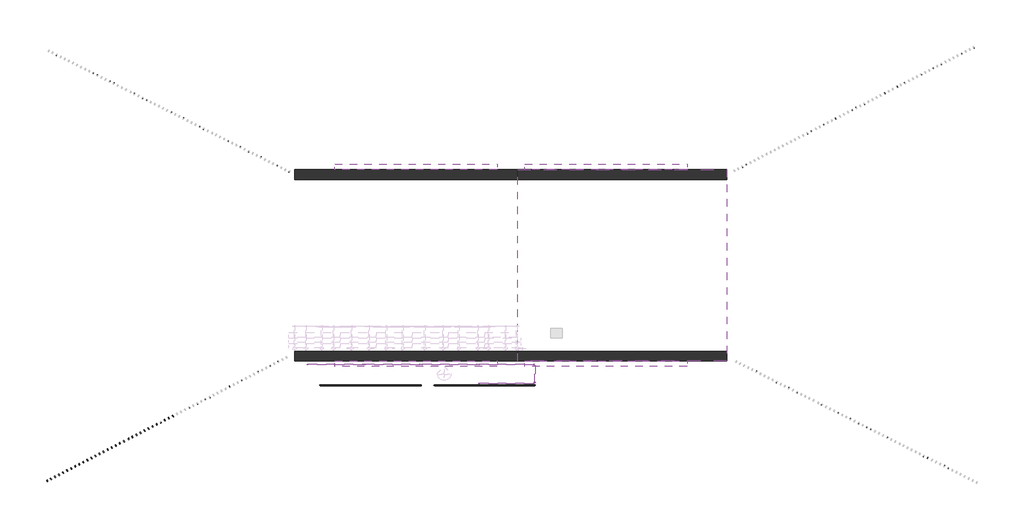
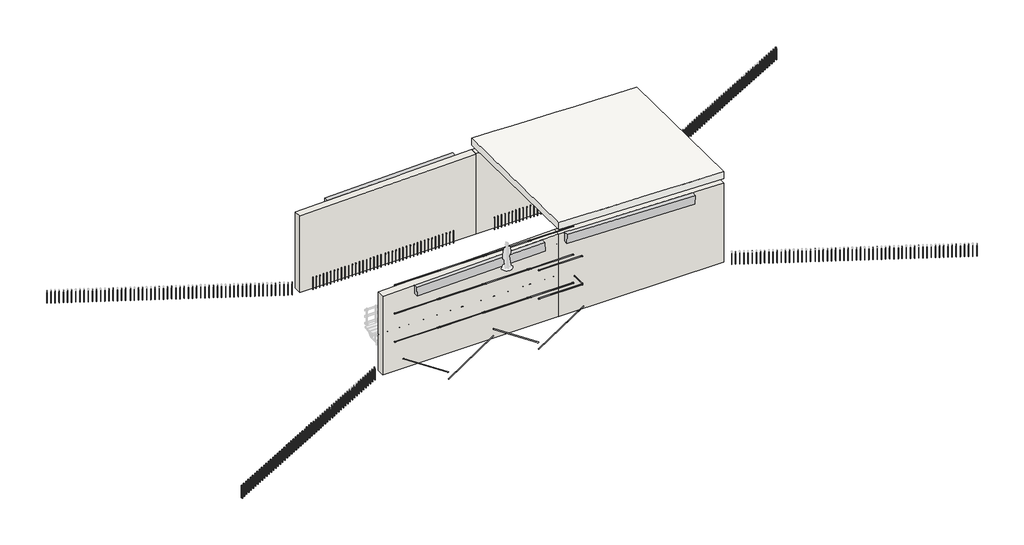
# One storey, part 1 of 7: 82 proxies, 44 beams, 4 walls, 1 slab.
"""IFC4 building model written with IfcOpenShell, lengths in millimetres."""

from ifc_helpers import new_model, si_unit, frame, origin, place, context, project, spatial, polyline, outline, extrude, transform, mapped, element, save
from ifc_brep_helpers import plane_surface, spline_surface, advanced_brep
from components import beam_9b0c44ac, generic_models_e9040c9c, d300200_67c6fa93, l100_80f0c97a, l300_ff75a488

model = new_model("IFC4")

# Units and contexts
model_context = context("Model", 3, world=origin())
ifc_project = project(units=[si_unit("LENGTHUNIT", "METRE", prefix="MILLI")], contexts=[model_context])

# Site, building, storey
site = spatial("IfcSite", under=ifc_project)
building = spatial("IfcBuilding", under=site)
storey = spatial("IfcBuildingStorey", under=building, Name="Niveau bas piédroits", Elevation=1000.0)

# Beams
placement = place(None, origin())
element("IfcBeam", 1, ObjectType="Poutre rectangulaire - Béton : Corbeau en béton armé", at=placement, inside=storey, context=model_context, shape_type="SweptSolid", body=[
    extrude(outline(polyline([(0.0, -300.0), (0.0, 0.0), (8525.4, 0.0), (8525.4, -300.0), (0.0, -300.0)])), frame((-1062.6803852, 5550.0000072, 6035.042541), z_axis=(-0.024883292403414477, 0.0, 0.9996903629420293), x_axis=(-0.9996903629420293, 0.0, -0.024883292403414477)), (0.0, 0.0, 1.0), 600.0),
])
element("IfcBeam", 2, ObjectType="Poutre rectangulaire - Béton : Corbeau en béton armé", at=placement, inside=storey, context=model_context, shape_type="SweptSolid", body=[
    extrude(outline(polyline([(0.0, -300.0), (0.0, 0.0), (8525.4, 0.0), (8525.4, -300.0), (0.0, -300.0)])), frame((8907.2788616, 5550.0000072, 5838.9041325), z_axis=(0.025139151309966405, 0.0, 0.9996839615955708), x_axis=(-0.9996839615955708, 0.0, 0.025139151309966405)), (0.0, 0.0, 1.0), 600.0),
])
element("IfcBeam", 3, ObjectType="Poutre rectangulaire - Béton : Corbeau en béton armé", at=placement, inside=storey, context=model_context, shape_type="SweptSolid", body=[
    extrude(outline(polyline([(150.0, 0.0), (-150.0, 0.0), (-150.0, 8527.4), (150.0, 8527.4), (150.0, 0.0)])), frame((-1061.7969111, -4649.9999928, 6180.0616294), z_axis=(-0.02464821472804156, 0.0, 0.9996961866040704), x_axis=(0.0, 1.0, 0.0)), (0.0, 0.0, 1.0), 600.0),
])
element("IfcBeam", 4, ObjectType="Poutre rectangulaire - Béton : Corbeau en béton armé", at=placement, inside=storey, context=model_context, shape_type="SweptSolid", body=[
    extrude(outline(polyline([(150.0, 0.0), (-150.0, 0.0), (-150.0, 8527.4), (150.0, 8527.4), (150.0, 0.0)])), frame((8908.2965556, -4649.9999935, 5989.8788556), z_axis=(0.025113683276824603, 0.0, 0.9996846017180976), x_axis=(0.0, 1.0, 0.0)), (0.0, 0.0, 1.0), 600.0),
])
beam_shape = beam_9b0c44ac(model_context)
element("IfcBeam", 5, ObjectType="Attentes HA 10 : Attentes HA 10", at=placement, inside=storey, context=model_context, shape_type="MappedRepresentation", body=[
    mapped(beam_shape, transform((8444.5007275, -4039.9999928, 0.0), x_axis=(1.0, 0.0, 0.0), y_axis=(0.0, 1.0, 0.0), z_axis=(0.0, 0.0, 1.0))),
])
element("IfcBeam", 6, ObjectType="Attentes HA 10 : Attentes HA 10", at=placement, inside=storey, context=model_context, shape_type="MappedRepresentation", body=[
    mapped(beam_shape, transform((8444.5007275, -4319.9999928, 0.0), x_axis=(1.0, 0.0, 0.0), y_axis=(0.0, 1.0, 0.0), z_axis=(0.0, 0.0, 1.0))),
])
element("IfcBeam", 7, ObjectType="Attentes HA 10 : Attentes HA 10", at=placement, inside=storey, context=model_context, shape_type="MappedRepresentation", body=[
    mapped(beam_shape, transform((3624.5007275, -4039.9999928, 0.0), x_axis=(1.0, 0.0, 0.0), y_axis=(0.0, 1.0, 0.0), z_axis=(0.0, 0.0, 1.0))),
])
element("IfcBeam", 8, ObjectType="Attentes HA 10 : Attentes HA 10", at=placement, inside=storey, context=model_context, shape_type="MappedRepresentation", body=[
    mapped(beam_shape, transform((3624.5007275, -4319.9999928, 0.0), x_axis=(1.0, 0.0, 0.0), y_axis=(0.0, 1.0, 0.0), z_axis=(0.0, 0.0, 1.0))),
])
element("IfcBeam", 9, ObjectType="Attentes HA 10 : Attentes HA 10", at=placement, inside=storey, context=model_context, shape_type="MappedRepresentation", body=[
    mapped(beam_shape, transform((-18278.7988754, 8642.3508999, -204.3181378), x_axis=(0.8933406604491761, -0.449380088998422, 0.0), y_axis=(0.449380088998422, 0.8933406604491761, 0.0), z_axis=(0.0, 0.0, 1.0))),
])
element("IfcBeam", 10, ObjectType="Attentes HA 10 : Attentes HA 10", at=placement, inside=storey, context=model_context, shape_type="MappedRepresentation", body=[
    mapped(beam_shape, transform((-18303.5147803, 8593.2171636, -204.3181378), x_axis=(0.8933406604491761, -0.449380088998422, 0.0), y_axis=(0.449380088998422, 0.8933406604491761, 0.0), z_axis=(0.0, 0.0, 1.0))),
])
element("IfcBeam", 11, ObjectType="Attentes HA 10 : Attentes HA 10", at=placement, inside=storey, context=model_context, shape_type="MappedRepresentation", body=[
    mapped(beam_shape, transform((-22584.7008588, 10808.3629289, -204.3181378), x_axis=(0.8933406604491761, -0.449380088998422, 0.0), y_axis=(0.449380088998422, 0.8933406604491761, 0.0), z_axis=(0.0, 0.0, 1.0))),
])
element("IfcBeam", 12, ObjectType="Attentes HA 10 : Attentes HA 10", at=placement, inside=storey, context=model_context, shape_type="MappedRepresentation", body=[
    mapped(beam_shape, transform((-22609.4167637, 10759.2291925, -204.3181378), x_axis=(0.8933406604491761, -0.449380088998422, 0.0), y_axis=(0.449380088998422, 0.8933406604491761, 0.0), z_axis=(0.0, 0.0, 1.0))),
])
element("IfcBeam", 13, ObjectType="Attentes HA 10 : Attentes HA 10", at=placement, inside=storey, context=model_context, shape_type="MappedRepresentation", body=[
    mapped(beam_shape, transform((-13990.7637053, 6485.3264727, -204.3181378), x_axis=(0.8933406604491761, -0.449380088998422, 0.0), y_axis=(0.449380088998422, 0.8933406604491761, 0.0), z_axis=(0.0, 0.0, 1.0))),
])
element("IfcBeam", 14, ObjectType="Attentes HA 10 : Attentes HA 10", at=placement, inside=storey, context=model_context, shape_type="MappedRepresentation", body=[
    mapped(beam_shape, transform((-14015.4796102, 6436.1927364, -204.3181378), x_axis=(0.8933406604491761, -0.449380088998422, 0.0), y_axis=(0.449380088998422, 0.8933406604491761, 0.0), z_axis=(0.0, 0.0, 1.0))),
])
element("IfcBeam", 15, ObjectType="Attentes HA 10 : Attentes HA 10", at=placement, inside=storey, context=model_context, shape_type="MappedRepresentation", body=[
    mapped(beam_shape, transform((-3741.9547896, 5322.0556666, 0.0), x_axis=(1.0, 0.0, 0.0), y_axis=(0.0, 1.0, 0.0), z_axis=(0.0, 0.0, 1.0))),
])
element("IfcBeam", 16, ObjectType="Attentes HA 10 : Attentes HA 10", at=placement, inside=storey, context=model_context, shape_type="MappedRepresentation", body=[
    mapped(beam_shape, transform((-3741.9547896, 5042.0556666, 0.0), x_axis=(1.0, 0.0, 0.0), y_axis=(0.0, 1.0, 0.0), z_axis=(0.0, 0.0, 1.0))),
])
element("IfcBeam", 17, ObjectType="Attentes HA 10 : Attentes HA 10", at=placement, inside=storey, context=model_context, shape_type="MappedRepresentation", body=[
    mapped(beam_shape, transform((-8561.9547896, 5322.0556666, 0.0), x_axis=(1.0, 0.0, 0.0), y_axis=(0.0, 1.0, 0.0), z_axis=(0.0, 0.0, 1.0))),
])
element("IfcBeam", 18, ObjectType="Attentes HA 10 : Attentes HA 10", at=placement, inside=storey, context=model_context, shape_type="MappedRepresentation", body=[
    mapped(beam_shape, transform((-8561.9547896, 5042.0556666, 0.0), x_axis=(1.0, 0.0, 0.0), y_axis=(0.0, 1.0, 0.0), z_axis=(0.0, 0.0, 1.0))),
])
element("IfcBeam", 19, ObjectType="Attentes HA 10 : Attentes HA 10", at=placement, inside=storey, context=model_context, shape_type="MappedRepresentation", body=[
    mapped(beam_shape, transform((8358.0452104, 5322.0556666, 0.0), x_axis=(1.0, 0.0, 0.0), y_axis=(0.0, 1.0, 0.0), z_axis=(0.0, 0.0, 1.0))),
])
element("IfcBeam", 20, ObjectType="Attentes HA 10 : Attentes HA 10", at=placement, inside=storey, context=model_context, shape_type="MappedRepresentation", body=[
    mapped(beam_shape, transform((8358.0452104, 5042.0556666, 0.0), x_axis=(1.0, 0.0, 0.0), y_axis=(0.0, 1.0, 0.0), z_axis=(0.0, 0.0, 1.0))),
])
element("IfcBeam", 21, ObjectType="Attentes HA 10 : Attentes HA 10", at=placement, inside=storey, context=model_context, shape_type="MappedRepresentation", body=[
    mapped(beam_shape, transform((3538.0452104, 5322.0556666, 0.0), x_axis=(1.0, 0.0, 0.0), y_axis=(0.0, 1.0, 0.0), z_axis=(0.0, 0.0, 1.0))),
])
element("IfcBeam", 22, ObjectType="Attentes HA 10 : Attentes HA 10", at=placement, inside=storey, context=model_context, shape_type="MappedRepresentation", body=[
    mapped(beam_shape, transform((3538.0452104, 5042.0556666, 0.0), x_axis=(1.0, 0.0, 0.0), y_axis=(0.0, 1.0, 0.0), z_axis=(0.0, 0.0, 1.0))),
])
element("IfcBeam", 23, ObjectType="Attentes HA 10 : Attentes HA 10", at=placement, inside=storey, context=model_context, shape_type="MappedRepresentation", body=[
    mapped(beam_shape, transform((17868.8894494, -7714.7875423, -204.3181378), x_axis=(0.8933406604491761, -0.449380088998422, 0.0), y_axis=(0.449380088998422, 0.8933406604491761, 0.0), z_axis=(0.0, 0.0, 1.0))),
])
element("IfcBeam", 24, ObjectType="Attentes HA 10 : Attentes HA 10", at=placement, inside=storey, context=model_context, shape_type="MappedRepresentation", body=[
    mapped(beam_shape, transform((17844.1735445, -7763.9212787, -204.3181378), x_axis=(0.8933406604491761, -0.449380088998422, 0.0), y_axis=(0.449380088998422, 0.8933406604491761, 0.0), z_axis=(0.0, 0.0, 1.0))),
])
element("IfcBeam", 25, ObjectType="Attentes HA 10 : Attentes HA 10", at=placement, inside=storey, context=model_context, shape_type="MappedRepresentation", body=[
    mapped(beam_shape, transform((13562.987466, -5548.7755134, -204.3181378), x_axis=(0.8933406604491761, -0.449380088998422, 0.0), y_axis=(0.449380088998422, 0.8933406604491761, 0.0), z_axis=(0.0, 0.0, 1.0))),
])
element("IfcBeam", 26, ObjectType="Attentes HA 10 : Attentes HA 10", at=placement, inside=storey, context=model_context, shape_type="MappedRepresentation", body=[
    mapped(beam_shape, transform((13538.2715611, -5597.9092497, -204.3181378), x_axis=(0.8933406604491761, -0.449380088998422, 0.0), y_axis=(0.449380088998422, 0.8933406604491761, 0.0), z_axis=(0.0, 0.0, 1.0))),
])
element("IfcBeam", 27, ObjectType="Attentes HA 10 : Attentes HA 10", at=placement, inside=storey, context=model_context, shape_type="MappedRepresentation", body=[
    mapped(beam_shape, transform((22156.9246196, -9871.8119695, -204.3181378), x_axis=(0.8933406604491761, -0.449380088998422, 0.0), y_axis=(0.449380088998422, 0.8933406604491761, 0.0), z_axis=(0.0, 0.0, 1.0))),
])
element("IfcBeam", 28, ObjectType="Attentes HA 10 : Attentes HA 10", at=placement, inside=storey, context=model_context, shape_type="MappedRepresentation", body=[
    mapped(beam_shape, transform((22132.2087147, -9920.9457059, -204.3181378), x_axis=(0.8933406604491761, -0.449380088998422, 0.0), y_axis=(0.449380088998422, 0.8933406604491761, 0.0), z_axis=(0.0, 0.0, 1.0))),
])
element("IfcBeam", 29, ObjectType="Attentes HA 10 : Attentes HA 10", at=placement, inside=storey, context=model_context, shape_type="MappedRepresentation", body=[
    mapped(beam_shape, transform((17719.4567399, 8784.241325, -204.3181378), x_axis=(0.8886485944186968, 0.45858878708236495, 0.0), y_axis=(-0.45858878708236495, 0.8886485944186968, 0.0), z_axis=(0.0, 0.0, 1.0))),
])
element("IfcBeam", 30, ObjectType="Attentes HA 10 : Attentes HA 10", at=placement, inside=storey, context=model_context, shape_type="MappedRepresentation", body=[
    mapped(beam_shape, transform((17744.6791232, 8735.3656524, -204.3181378), x_axis=(0.8886485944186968, 0.45858878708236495, 0.0), y_axis=(-0.45858878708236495, 0.8886485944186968, 0.0), z_axis=(0.0, 0.0, 1.0))),
])
element("IfcBeam", 31, ObjectType="Attentes HA 10 : Attentes HA 10", at=placement, inside=storey, context=model_context, shape_type="MappedRepresentation", body=[
    mapped(beam_shape, transform((13436.1705148, 6573.8433713, -204.3181378), x_axis=(0.8886485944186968, 0.45858878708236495, 0.0), y_axis=(-0.45858878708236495, 0.8886485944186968, 0.0), z_axis=(0.0, 0.0, 1.0))),
])
element("IfcBeam", 32, ObjectType="Attentes HA 10 : Attentes HA 10", at=placement, inside=storey, context=model_context, shape_type="MappedRepresentation", body=[
    mapped(beam_shape, transform((13461.3928981, 6524.9676986, -204.3181378), x_axis=(0.8886485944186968, 0.45858878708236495, 0.0), y_axis=(-0.45858878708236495, 0.8886485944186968, 0.0), z_axis=(0.0, 0.0, 1.0))),
])
element("IfcBeam", 33, ObjectType="Attentes HA 10 : Attentes HA 10", at=placement, inside=storey, context=model_context, shape_type="MappedRepresentation", body=[
    mapped(beam_shape, transform((21984.9699931, 10985.467503, -204.3181378), x_axis=(0.8886485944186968, 0.45858878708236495, 0.0), y_axis=(-0.45858878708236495, 0.8886485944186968, 0.0), z_axis=(0.0, 0.0, 1.0))),
])
element("IfcBeam", 34, ObjectType="Attentes HA 10 : Attentes HA 10", at=placement, inside=storey, context=model_context, shape_type="MappedRepresentation", body=[
    mapped(beam_shape, transform((22010.1923764, 10936.5918303, -204.3181378), x_axis=(0.8886485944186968, 0.45858878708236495, 0.0), y_axis=(-0.45858878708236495, 0.8886485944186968, 0.0), z_axis=(0.0, 0.0, 1.0))),
])
element("IfcBeam", 35, ObjectType="Attentes HA 10 : Attentes HA 10", at=placement, inside=storey, context=model_context, shape_type="MappedRepresentation", body=[
    mapped(beam_shape, transform((-18423.1063622, -7537.8715514, -204.3181378), x_axis=(0.8886485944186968, 0.45858878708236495, 0.0), y_axis=(-0.45858878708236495, 0.8886485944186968, 0.0), z_axis=(0.0, 0.0, 1.0))),
])
element("IfcBeam", 36, ObjectType="Attentes HA 10 : Attentes HA 10", at=placement, inside=storey, context=model_context, shape_type="MappedRepresentation", body=[
    mapped(beam_shape, transform((-18397.8839789, -7586.7472241, -204.3181378), x_axis=(0.8886485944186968, 0.45858878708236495, 0.0), y_axis=(-0.45858878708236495, 0.8886485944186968, 0.0), z_axis=(0.0, 0.0, 1.0))),
])
element("IfcBeam", 37, ObjectType="Attentes HA 10 : Attentes HA 10", at=placement, inside=storey, context=model_context, shape_type="MappedRepresentation", body=[
    mapped(beam_shape, transform((-22706.3925873, -9748.2695052, -204.3181378), x_axis=(0.8886485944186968, 0.45858878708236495, 0.0), y_axis=(-0.45858878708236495, 0.8886485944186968, 0.0), z_axis=(0.0, 0.0, 1.0))),
])
element("IfcBeam", 38, ObjectType="Attentes HA 10 : Attentes HA 10", at=placement, inside=storey, context=model_context, shape_type="MappedRepresentation", body=[
    mapped(beam_shape, transform((-22681.170204, -9797.1451779, -204.3181378), x_axis=(0.8886485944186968, 0.45858878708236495, 0.0), y_axis=(-0.45858878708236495, 0.8886485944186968, 0.0), z_axis=(0.0, 0.0, 1.0))),
])
element("IfcBeam", 39, ObjectType="Attentes HA 10 : Attentes HA 10", at=placement, inside=storey, context=model_context, shape_type="MappedRepresentation", body=[
    mapped(beam_shape, transform((-14157.593109, -5336.6453734, -204.3181378), x_axis=(0.8886485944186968, 0.45858878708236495, 0.0), y_axis=(-0.45858878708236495, 0.8886485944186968, 0.0), z_axis=(0.0, 0.0, 1.0))),
])
element("IfcBeam", 40, ObjectType="Attentes HA 10 : Attentes HA 10", at=placement, inside=storey, context=model_context, shape_type="MappedRepresentation", body=[
    mapped(beam_shape, transform((-14132.3707257, -5385.5210461, -204.3181378), x_axis=(0.8886485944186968, 0.45858878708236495, 0.0), y_axis=(-0.45858878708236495, 0.8886485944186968, 0.0), z_axis=(0.0, 0.0, 1.0))),
])
element("IfcBeam", 41, ObjectType="Attentes HA 10 : Attentes HA 10", at=placement, inside=storey, context=model_context, shape_type="MappedRepresentation", body=[
    mapped(beam_shape, transform((-3255.4992725, -4039.9999928, 0.0), x_axis=(1.0, 0.0, 0.0), y_axis=(0.0, 1.0, 0.0), z_axis=(0.0, 0.0, 1.0))),
])
element("IfcBeam", 42, ObjectType="Attentes HA 10 : Attentes HA 10", at=placement, inside=storey, context=model_context, shape_type="MappedRepresentation", body=[
    mapped(beam_shape, transform((-3255.4992725, -4319.9999928, 0.0), x_axis=(1.0, 0.0, 0.0), y_axis=(0.0, 1.0, 0.0), z_axis=(0.0, 0.0, 1.0))),
])
element("IfcBeam", 43, ObjectType="Attentes HA 10 : Attentes HA 10", at=placement, inside=storey, context=model_context, shape_type="MappedRepresentation", body=[
    mapped(beam_shape, transform((-8075.4992725, -4039.9999928, 0.0), x_axis=(1.0, 0.0, 0.0), y_axis=(0.0, 1.0, 0.0), z_axis=(0.0, 0.0, 1.0))),
])
element("IfcBeam", 44, ObjectType="Attentes HA 10 : Attentes HA 10", at=placement, inside=storey, context=model_context, shape_type="MappedRepresentation", body=[
    mapped(beam_shape, transform((-8075.4992725, -4319.9999928, 0.0), x_axis=(1.0, 0.0, 0.0), y_axis=(0.0, 1.0, 0.0), z_axis=(0.0, 0.0, 1.0))),
])

# Proxies
generic_models_shape = generic_models_e9040c9c(model_context)
element("IfcBuildingElementProxy", 45, Name="Bouchon de sécurité vertical : Bouchon de sécurité vertical", ObjectType="Bouchon de sécurité vertical : Bouchon de sécurité vertical", at=placement, inside=storey, context=model_context, shape_type="MappedRepresentation", body=[
    mapped(generic_models_shape, transform((-22143.8979318, -9502.5796537, 1504.6594135), x_axis=(0.8886485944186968, 0.45858878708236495, 0.0), y_axis=(-0.45858878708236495, 0.8886485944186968, 0.0), z_axis=(0.0, 0.0, 1.0))),
])
element("IfcBuildingElementProxy", 46, Name="Bouchon de sécurité vertical : Bouchon de sécurité vertical", ObjectType="Bouchon de sécurité vertical : Bouchon de sécurité vertical", at=placement, inside=storey, context=model_context, shape_type="MappedRepresentation", body=[
    mapped(generic_models_shape, transform((-22357.1735945, -9612.6409626, 1504.6594135), x_axis=(0.8886485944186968, 0.45858878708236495, 0.0), y_axis=(-0.45858878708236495, 0.8886485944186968, 0.0), z_axis=(0.0, 0.0, 1.0))),
])
element("IfcBuildingElementProxy", 47, Name="Bouchon de sécurité vertical : Bouchon de sécurité vertical", ObjectType="Bouchon de sécurité vertical : Bouchon de sécurité vertical", at=placement, inside=storey, context=model_context, shape_type="MappedRepresentation", body=[
    mapped(generic_models_shape, transform((-22570.4492571, -9722.7022715, 1504.6594135), x_axis=(0.8886485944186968, 0.45858878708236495, 0.0), y_axis=(-0.45858878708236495, 0.8886485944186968, 0.0), z_axis=(0.0, 0.0, 1.0))),
])
element("IfcBuildingElementProxy", 48, Name="Bouchon de sécurité vertical : Bouchon de sécurité vertical", ObjectType="Bouchon de sécurité vertical : Bouchon de sécurité vertical", at=placement, inside=storey, context=model_context, shape_type="MappedRepresentation", body=[
    mapped(generic_models_shape, transform((-22783.7249198, -9832.7635804, 1504.6594135), x_axis=(0.8886485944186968, 0.45858878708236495, 0.0), y_axis=(-0.45858878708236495, 0.8886485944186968, 0.0), z_axis=(0.0, 0.0, 1.0))),
])
element("IfcBuildingElementProxy", 49, Name="Bouchon de sécurité vertical : Bouchon de sécurité vertical", ObjectType="Bouchon de sécurité vertical : Bouchon de sécurité vertical", at=placement, inside=storey, context=model_context, shape_type="MappedRepresentation", body=[
    mapped(generic_models_shape, transform((-22997.0005824, -9942.8248893, 1504.6594135), x_axis=(0.8886485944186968, 0.45858878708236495, 0.0), y_axis=(-0.45858878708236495, 0.8886485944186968, 0.0), z_axis=(0.0, 0.0, 1.0))),
])
element("IfcBuildingElementProxy", 50, Name="Bouchon de sécurité vertical : Bouchon de sécurité vertical", ObjectType="Bouchon de sécurité vertical : Bouchon de sécurité vertical", at=placement, inside=storey, context=model_context, shape_type="MappedRepresentation", body=[
    mapped(generic_models_shape, transform((-23210.2762451, -10052.8861982, 1504.6594135), x_axis=(0.8886485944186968, 0.45858878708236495, 0.0), y_axis=(-0.45858878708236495, 0.8886485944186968, 0.0), z_axis=(0.0, 0.0, 1.0))),
])
element("IfcBuildingElementProxy", 51, Name="Bouchon de sécurité vertical : Bouchon de sécurité vertical", ObjectType="Bouchon de sécurité vertical : Bouchon de sécurité vertical", at=placement, inside=storey, context=model_context, shape_type="MappedRepresentation", body=[
    mapped(generic_models_shape, transform((-23423.5519078, -10162.9475071, 1504.6594135), x_axis=(0.8886485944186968, 0.45858878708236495, 0.0), y_axis=(-0.45858878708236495, 0.8886485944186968, 0.0), z_axis=(0.0, 0.0, 1.0))),
])
element("IfcBuildingElementProxy", 52, Name="Bouchon de sécurité vertical : Bouchon de sécurité vertical", ObjectType="Bouchon de sécurité vertical : Bouchon de sécurité vertical", at=placement, inside=storey, context=model_context, shape_type="MappedRepresentation", body=[
    mapped(generic_models_shape, transform((-23636.8275704, -10273.0088159, 1504.6594135), x_axis=(0.8886485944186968, 0.45858878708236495, 0.0), y_axis=(-0.45858878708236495, 0.8886485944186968, 0.0), z_axis=(0.0, 0.0, 1.0))),
])
element("IfcBuildingElementProxy", 53, Name="Bouchon de sécurité vertical : Bouchon de sécurité vertical", ObjectType="Bouchon de sécurité vertical : Bouchon de sécurité vertical", at=placement, inside=storey, context=model_context, shape_type="MappedRepresentation", body=[
    mapped(generic_models_shape, transform((-23850.1032331, -10383.0701248, 1504.6594135), x_axis=(0.8886485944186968, 0.45858878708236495, 0.0), y_axis=(-0.45858878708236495, 0.8886485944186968, 0.0), z_axis=(0.0, 0.0, 1.0))),
])
element("IfcBuildingElementProxy", 54, Name="Bouchon de sécurité vertical : Bouchon de sécurité vertical", ObjectType="Bouchon de sécurité vertical : Bouchon de sécurité vertical", at=placement, inside=storey, context=model_context, shape_type="MappedRepresentation", body=[
    mapped(generic_models_shape, transform((-24063.3788957, -10493.1314337, 1504.6594135), x_axis=(0.8886485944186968, 0.45858878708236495, 0.0), y_axis=(-0.45858878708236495, 0.8886485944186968, 0.0), z_axis=(0.0, 0.0, 1.0))),
])
element("IfcBuildingElementProxy", 55, Name="Bouchon de sécurité vertical : Bouchon de sécurité vertical", ObjectType="Bouchon de sécurité vertical : Bouchon de sécurité vertical", at=placement, inside=storey, context=model_context, shape_type="MappedRepresentation", body=[
    mapped(generic_models_shape, transform((-24276.6545584, -10603.1927426, 1504.6594135), x_axis=(0.8886485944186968, 0.45858878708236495, 0.0), y_axis=(-0.45858878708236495, 0.8886485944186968, 0.0), z_axis=(0.0, 0.0, 1.0))),
])
element("IfcBuildingElementProxy", 56, Name="Bouchon de sécurité vertical : Bouchon de sécurité vertical", ObjectType="Bouchon de sécurité vertical : Bouchon de sécurité vertical", at=placement, inside=storey, context=model_context, shape_type="MappedRepresentation", body=[
    mapped(generic_models_shape, transform((-24489.9302211, -10713.2540515, 1504.6594135), x_axis=(0.8886485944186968, 0.45858878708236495, 0.0), y_axis=(-0.45858878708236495, 0.8886485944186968, 0.0), z_axis=(0.0, 0.0, 1.0))),
])
element("IfcBuildingElementProxy", 57, Name="Bouchon de sécurité vertical : Bouchon de sécurité vertical", ObjectType="Bouchon de sécurité vertical : Bouchon de sécurité vertical", at=placement, inside=storey, context=model_context, shape_type="MappedRepresentation", body=[
    mapped(generic_models_shape, transform((-24685.4329118, -10814.1435847, 1504.6594135), x_axis=(0.8886485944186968, 0.45858878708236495, 0.0), y_axis=(-0.45858878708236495, 0.8886485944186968, 0.0), z_axis=(0.0, 0.0, 1.0))),
])
element("IfcBuildingElementProxy", 58, Name="Bouchon de sécurité vertical : Bouchon de sécurité vertical", ObjectType="Bouchon de sécurité vertical : Bouchon de sécurité vertical", at=placement, inside=storey, context=model_context, shape_type="MappedRepresentation", body=[
    mapped(generic_models_shape, transform((-21930.6222691, -9392.5183448, 1504.6594135), x_axis=(0.8886485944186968, 0.45858878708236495, 0.0), y_axis=(-0.45858878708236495, 0.8886485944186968, 0.0), z_axis=(0.0, 0.0, 1.0))),
])
element("IfcBuildingElementProxy", 59, Name="Bouchon de sécurité vertical : Bouchon de sécurité vertical", ObjectType="Bouchon de sécurité vertical : Bouchon de sécurité vertical", at=placement, inside=storey, context=model_context, shape_type="MappedRepresentation", body=[
    mapped(generic_models_shape, transform((-21717.3466065, -9282.4570359, 1504.6594135), x_axis=(0.8886485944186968, 0.45858878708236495, 0.0), y_axis=(-0.45858878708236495, 0.8886485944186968, 0.0), z_axis=(0.0, 0.0, 1.0))),
])
element("IfcBuildingElementProxy", 60, Name="Bouchon de sécurité vertical : Bouchon de sécurité vertical", ObjectType="Bouchon de sécurité vertical : Bouchon de sécurité vertical", at=placement, inside=storey, context=model_context, shape_type="MappedRepresentation", body=[
    mapped(generic_models_shape, transform((-20402.0703296, -8603.7062267, 1504.6594135), x_axis=(0.8886485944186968, 0.45858878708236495, 0.0), y_axis=(-0.45858878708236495, 0.8886485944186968, 0.0), z_axis=(0.0, 0.0, 1.0))),
])
element("IfcBuildingElementProxy", 61, Name="Bouchon de sécurité vertical : Bouchon de sécurité vertical", ObjectType="Bouchon de sécurité vertical : Bouchon de sécurité vertical", at=placement, inside=storey, context=model_context, shape_type="MappedRepresentation", body=[
    mapped(generic_models_shape, transform((-20650.9682932, -8732.1504914, 1504.6594135), x_axis=(0.8886485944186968, 0.45858878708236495, 0.0), y_axis=(-0.45858878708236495, 0.8886485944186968, 0.0), z_axis=(0.0, 0.0, 1.0))),
])
element("IfcBuildingElementProxy", 62, Name="Bouchon de sécurité vertical : Bouchon de sécurité vertical", ObjectType="Bouchon de sécurité vertical : Bouchon de sécurité vertical", at=placement, inside=storey, context=model_context, shape_type="MappedRepresentation", body=[
    mapped(generic_models_shape, transform((-20864.2439558, -8842.2118003, 1504.6594135), x_axis=(0.8886485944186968, 0.45858878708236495, 0.0), y_axis=(-0.45858878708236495, 0.8886485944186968, 0.0), z_axis=(0.0, 0.0, 1.0))),
])
element("IfcBuildingElementProxy", 63, Name="Bouchon de sécurité vertical : Bouchon de sécurité vertical", ObjectType="Bouchon de sécurité vertical : Bouchon de sécurité vertical", at=placement, inside=storey, context=model_context, shape_type="MappedRepresentation", body=[
    mapped(generic_models_shape, transform((-21077.5196185, -8952.2731092, 1504.6594135), x_axis=(0.8886485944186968, 0.45858878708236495, 0.0), y_axis=(-0.45858878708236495, 0.8886485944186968, 0.0), z_axis=(0.0, 0.0, 1.0))),
])
element("IfcBuildingElementProxy", 64, Name="Bouchon de sécurité vertical : Bouchon de sécurité vertical", ObjectType="Bouchon de sécurité vertical : Bouchon de sécurité vertical", at=placement, inside=storey, context=model_context, shape_type="MappedRepresentation", body=[
    mapped(generic_models_shape, transform((-21290.7952812, -9062.3344181, 1504.6594135), x_axis=(0.8886485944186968, 0.45858878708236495, 0.0), y_axis=(-0.45858878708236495, 0.8886485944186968, 0.0), z_axis=(0.0, 0.0, 1.0))),
])
element("IfcBuildingElementProxy", 65, Name="Bouchon de sécurité vertical : Bouchon de sécurité vertical", ObjectType="Bouchon de sécurité vertical : Bouchon de sécurité vertical", at=placement, inside=storey, context=model_context, shape_type="MappedRepresentation", body=[
    mapped(generic_models_shape, transform((-21504.0709438, -9172.395727, 1504.6594135), x_axis=(0.8886485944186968, 0.45858878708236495, 0.0), y_axis=(-0.45858878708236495, 0.8886485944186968, 0.0), z_axis=(0.0, 0.0, 1.0))),
])
element("IfcBuildingElementProxy", 66, Name="Bouchon de sécurité vertical : Bouchon de sécurité vertical", ObjectType="Bouchon de sécurité vertical : Bouchon de sécurité vertical", at=placement, inside=storey, context=model_context, shape_type="MappedRepresentation", body=[
    mapped(generic_models_shape, transform((-20206.643996, -8502.8560978, 1504.6594135), x_axis=(0.8886485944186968, 0.45858878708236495, 0.0), y_axis=(-0.45858878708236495, 0.8886485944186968, 0.0), z_axis=(0.0, 0.0, 1.0))),
])
element("IfcBuildingElementProxy", 67, Name="Bouchon de sécurité vertical : Bouchon de sécurité vertical", ObjectType="Bouchon de sécurité vertical : Bouchon de sécurité vertical", at=placement, inside=storey, context=model_context, shape_type="MappedRepresentation", body=[
    mapped(generic_models_shape, transform((-19993.3683333, -8392.7947889, 1504.6594135), x_axis=(0.8886485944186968, 0.45858878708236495, 0.0), y_axis=(-0.45858878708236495, 0.8886485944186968, 0.0), z_axis=(0.0, 0.0, 1.0))),
])
element("IfcBuildingElementProxy", 68, Name="Bouchon de sécurité vertical : Bouchon de sécurité vertical", ObjectType="Bouchon de sécurité vertical : Bouchon de sécurité vertical", at=placement, inside=storey, context=model_context, shape_type="MappedRepresentation", body=[
    mapped(generic_models_shape, transform((-18073.8873694, -7402.2430088, 1504.6594135), x_axis=(0.8886485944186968, 0.45858878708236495, 0.0), y_axis=(-0.45858878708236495, 0.8886485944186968, 0.0), z_axis=(0.0, 0.0, 1.0))),
])
element("IfcBuildingElementProxy", 69, Name="Bouchon de sécurité vertical : Bouchon de sécurité vertical", ObjectType="Bouchon de sécurité vertical : Bouchon de sécurité vertical", at=placement, inside=storey, context=model_context, shape_type="MappedRepresentation", body=[
    mapped(generic_models_shape, transform((-18287.163032, -7512.3043177, 1504.6594135), x_axis=(0.8886485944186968, 0.45858878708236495, 0.0), y_axis=(-0.45858878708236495, 0.8886485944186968, 0.0), z_axis=(0.0, 0.0, 1.0))),
])
element("IfcBuildingElementProxy", 70, Name="Bouchon de sécurité vertical : Bouchon de sécurité vertical", ObjectType="Bouchon de sécurité vertical : Bouchon de sécurité vertical", at=placement, inside=storey, context=model_context, shape_type="MappedRepresentation", body=[
    mapped(generic_models_shape, transform((-18500.4386947, -7622.3656266, 1504.6594135), x_axis=(0.8886485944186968, 0.45858878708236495, 0.0), y_axis=(-0.45858878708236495, 0.8886485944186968, 0.0), z_axis=(0.0, 0.0, 1.0))),
])
element("IfcBuildingElementProxy", 71, Name="Bouchon de sécurité vertical : Bouchon de sécurité vertical", ObjectType="Bouchon de sécurité vertical : Bouchon de sécurité vertical", at=placement, inside=storey, context=model_context, shape_type="MappedRepresentation", body=[
    mapped(generic_models_shape, transform((-19780.0926706, -8282.73348, 1504.6594135), x_axis=(0.8886485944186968, 0.45858878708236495, 0.0), y_axis=(-0.45858878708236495, 0.8886485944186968, 0.0), z_axis=(0.0, 0.0, 1.0))),
])
element("IfcBuildingElementProxy", 72, Name="Bouchon de sécurité vertical : Bouchon de sécurité vertical", ObjectType="Bouchon de sécurité vertical : Bouchon de sécurité vertical", at=placement, inside=storey, context=model_context, shape_type="MappedRepresentation", body=[
    mapped(generic_models_shape, transform((-19566.817008, -8172.6721711, 1504.6594135), x_axis=(0.8886485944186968, 0.45858878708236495, 0.0), y_axis=(-0.45858878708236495, 0.8886485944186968, 0.0), z_axis=(0.0, 0.0, 1.0))),
])
element("IfcBuildingElementProxy", 73, Name="Bouchon de sécurité vertical : Bouchon de sécurité vertical", ObjectType="Bouchon de sécurité vertical : Bouchon de sécurité vertical", at=placement, inside=storey, context=model_context, shape_type="MappedRepresentation", body=[
    mapped(generic_models_shape, transform((-19353.5413453, -8062.6108622, 1504.6594135), x_axis=(0.8886485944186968, 0.45858878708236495, 0.0), y_axis=(-0.45858878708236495, 0.8886485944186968, 0.0), z_axis=(0.0, 0.0, 1.0))),
])
element("IfcBuildingElementProxy", 74, Name="Bouchon de sécurité vertical : Bouchon de sécurité vertical", ObjectType="Bouchon de sécurité vertical : Bouchon de sécurité vertical", at=placement, inside=storey, context=model_context, shape_type="MappedRepresentation", body=[
    mapped(generic_models_shape, transform((-19140.2656827, -7952.5495533, 1504.6594135), x_axis=(0.8886485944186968, 0.45858878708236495, 0.0), y_axis=(-0.45858878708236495, 0.8886485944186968, 0.0), z_axis=(0.0, 0.0, 1.0))),
])
element("IfcBuildingElementProxy", 75, Name="Bouchon de sécurité vertical : Bouchon de sécurité vertical", ObjectType="Bouchon de sécurité vertical : Bouchon de sécurité vertical", at=placement, inside=storey, context=model_context, shape_type="MappedRepresentation", body=[
    mapped(generic_models_shape, transform((-18927.4683081, -7842.7350659, 1504.6594135), x_axis=(0.8886485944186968, 0.45858878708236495, 0.0), y_axis=(-0.45858878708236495, 0.8886485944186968, 0.0), z_axis=(0.0, 0.0, 1.0))),
])
element("IfcBuildingElementProxy", 76, Name="Bouchon de sécurité vertical : Bouchon de sécurité vertical", ObjectType="Bouchon de sécurité vertical : Bouchon de sécurité vertical", at=placement, inside=storey, context=model_context, shape_type="MappedRepresentation", body=[
    mapped(generic_models_shape, transform((-18714.1926454, -7732.673757, 1504.6594135), x_axis=(0.8886485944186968, 0.45858878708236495, 0.0), y_axis=(-0.45858878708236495, 0.8886485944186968, 0.0), z_axis=(0.0, 0.0, 1.0))),
])
element("IfcBuildingElementProxy", 77, Name="Bouchon de sécurité vertical : Bouchon de sécurité vertical", ObjectType="Bouchon de sécurité vertical : Bouchon de sécurité vertical", at=placement, inside=storey, context=model_context, shape_type="MappedRepresentation", body=[
    mapped(generic_models_shape, transform((-22169.1203151, -9453.703981, 1504.6594135), x_axis=(0.8886485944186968, 0.45858878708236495, 0.0), y_axis=(-0.45858878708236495, 0.8886485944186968, 0.0), z_axis=(0.0, 0.0, 1.0))),
])
element("IfcBuildingElementProxy", 78, Name="Bouchon de sécurité vertical : Bouchon de sécurité vertical", ObjectType="Bouchon de sécurité vertical : Bouchon de sécurité vertical", at=placement, inside=storey, context=model_context, shape_type="MappedRepresentation", body=[
    mapped(generic_models_shape, transform((-22382.3959777, -9563.7652899, 1504.6594135), x_axis=(0.8886485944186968, 0.45858878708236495, 0.0), y_axis=(-0.45858878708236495, 0.8886485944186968, 0.0), z_axis=(0.0, 0.0, 1.0))),
])
element("IfcBuildingElementProxy", 79, Name="Bouchon de sécurité vertical : Bouchon de sécurité vertical", ObjectType="Bouchon de sécurité vertical : Bouchon de sécurité vertical", at=placement, inside=storey, context=model_context, shape_type="MappedRepresentation", body=[
    mapped(generic_models_shape, transform((-22595.6716404, -9673.8265988, 1504.6594135), x_axis=(0.8886485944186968, 0.45858878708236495, 0.0), y_axis=(-0.45858878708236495, 0.8886485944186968, 0.0), z_axis=(0.0, 0.0, 1.0))),
])
element("IfcBuildingElementProxy", 80, Name="Bouchon de sécurité vertical : Bouchon de sécurité vertical", ObjectType="Bouchon de sécurité vertical : Bouchon de sécurité vertical", at=placement, inside=storey, context=model_context, shape_type="MappedRepresentation", body=[
    mapped(generic_models_shape, transform((-22808.9473031, -9783.8879077, 1504.6594135), x_axis=(0.8886485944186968, 0.45858878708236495, 0.0), y_axis=(-0.45858878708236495, 0.8886485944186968, 0.0), z_axis=(0.0, 0.0, 1.0))),
])
element("IfcBuildingElementProxy", 81, Name="Bouchon de sécurité vertical : Bouchon de sécurité vertical", ObjectType="Bouchon de sécurité vertical : Bouchon de sécurité vertical", at=placement, inside=storey, context=model_context, shape_type="MappedRepresentation", body=[
    mapped(generic_models_shape, transform((-23022.2229657, -9893.9492166, 1504.6594135), x_axis=(0.8886485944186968, 0.45858878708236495, 0.0), y_axis=(-0.45858878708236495, 0.8886485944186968, 0.0), z_axis=(0.0, 0.0, 1.0))),
])
element("IfcBuildingElementProxy", 82, Name="Bouchon de sécurité vertical : Bouchon de sécurité vertical", ObjectType="Bouchon de sécurité vertical : Bouchon de sécurité vertical", at=placement, inside=storey, context=model_context, shape_type="MappedRepresentation", body=[
    mapped(generic_models_shape, transform((-23235.4986284, -10004.0105255, 1504.6594135), x_axis=(0.8886485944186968, 0.45858878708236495, 0.0), y_axis=(-0.45858878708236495, 0.8886485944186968, 0.0), z_axis=(0.0, 0.0, 1.0))),
])
element("IfcBuildingElementProxy", 83, Name="Bouchon de sécurité vertical : Bouchon de sécurité vertical", ObjectType="Bouchon de sécurité vertical : Bouchon de sécurité vertical", at=placement, inside=storey, context=model_context, shape_type="MappedRepresentation", body=[
    mapped(generic_models_shape, transform((-23448.774291, -10114.0718344, 1504.6594135), x_axis=(0.8886485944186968, 0.45858878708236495, 0.0), y_axis=(-0.45858878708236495, 0.8886485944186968, 0.0), z_axis=(0.0, 0.0, 1.0))),
])
element("IfcBuildingElementProxy", 84, Name="Bouchon de sécurité vertical : Bouchon de sécurité vertical", ObjectType="Bouchon de sécurité vertical : Bouchon de sécurité vertical", at=placement, inside=storey, context=model_context, shape_type="MappedRepresentation", body=[
    mapped(generic_models_shape, transform((-23662.0499537, -10224.1331433, 1504.6594135), x_axis=(0.8886485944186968, 0.45858878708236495, 0.0), y_axis=(-0.45858878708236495, 0.8886485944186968, 0.0), z_axis=(0.0, 0.0, 1.0))),
])
element("IfcBuildingElementProxy", 85, Name="Bouchon de sécurité vertical : Bouchon de sécurité vertical", ObjectType="Bouchon de sécurité vertical : Bouchon de sécurité vertical", at=placement, inside=storey, context=model_context, shape_type="MappedRepresentation", body=[
    mapped(generic_models_shape, transform((-23875.3256164, -10334.1944522, 1504.6594135), x_axis=(0.8886485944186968, 0.45858878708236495, 0.0), y_axis=(-0.45858878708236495, 0.8886485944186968, 0.0), z_axis=(0.0, 0.0, 1.0))),
])
element("IfcBuildingElementProxy", 86, Name="Bouchon de sécurité vertical : Bouchon de sécurité vertical", ObjectType="Bouchon de sécurité vertical : Bouchon de sécurité vertical", at=placement, inside=storey, context=model_context, shape_type="MappedRepresentation", body=[
    mapped(generic_models_shape, transform((-24088.601279, -10444.2557611, 1504.6594135), x_axis=(0.8886485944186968, 0.45858878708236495, 0.0), y_axis=(-0.45858878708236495, 0.8886485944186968, 0.0), z_axis=(0.0, 0.0, 1.0))),
])
element("IfcBuildingElementProxy", 87, Name="Bouchon de sécurité vertical : Bouchon de sécurité vertical", ObjectType="Bouchon de sécurité vertical : Bouchon de sécurité vertical", at=placement, inside=storey, context=model_context, shape_type="MappedRepresentation", body=[
    mapped(generic_models_shape, transform((-24301.8769417, -10554.31707, 1504.6594135), x_axis=(0.8886485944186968, 0.45858878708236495, 0.0), y_axis=(-0.45858878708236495, 0.8886485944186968, 0.0), z_axis=(0.0, 0.0, 1.0))),
])
element("IfcBuildingElementProxy", 88, Name="Bouchon de sécurité vertical : Bouchon de sécurité vertical", ObjectType="Bouchon de sécurité vertical : Bouchon de sécurité vertical", at=placement, inside=storey, context=model_context, shape_type="MappedRepresentation", body=[
    mapped(generic_models_shape, transform((-24515.1526043, -10664.3783789, 1504.6594135), x_axis=(0.8886485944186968, 0.45858878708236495, 0.0), y_axis=(-0.45858878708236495, 0.8886485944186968, 0.0), z_axis=(0.0, 0.0, 1.0))),
])
element("IfcBuildingElementProxy", 89, Name="Bouchon de sécurité vertical : Bouchon de sécurité vertical", ObjectType="Bouchon de sécurité vertical : Bouchon de sécurité vertical", at=placement, inside=storey, context=model_context, shape_type="MappedRepresentation", body=[
    mapped(generic_models_shape, transform((-24710.6552951, -10765.267912, 1504.6594135), x_axis=(0.8886485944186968, 0.45858878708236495, 0.0), y_axis=(-0.45858878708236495, 0.8886485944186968, 0.0), z_axis=(0.0, 0.0, 1.0))),
])
element("IfcBuildingElementProxy", 90, Name="Bouchon de sécurité vertical : Bouchon de sécurité vertical", ObjectType="Bouchon de sécurité vertical : Bouchon de sécurité vertical", at=placement, inside=storey, context=model_context, shape_type="MappedRepresentation", body=[
    mapped(generic_models_shape, transform((-21955.8446524, -9343.6426721, 1504.6594135), x_axis=(0.8886485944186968, 0.45858878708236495, 0.0), y_axis=(-0.45858878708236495, 0.8886485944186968, 0.0), z_axis=(0.0, 0.0, 1.0))),
])
element("IfcBuildingElementProxy", 91, Name="Bouchon de sécurité vertical : Bouchon de sécurité vertical", ObjectType="Bouchon de sécurité vertical : Bouchon de sécurité vertical", at=placement, inside=storey, context=model_context, shape_type="MappedRepresentation", body=[
    mapped(generic_models_shape, transform((-21742.5689898, -9233.5813632, 1504.6594135), x_axis=(0.8886485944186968, 0.45858878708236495, 0.0), y_axis=(-0.45858878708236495, 0.8886485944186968, 0.0), z_axis=(0.0, 0.0, 1.0))),
])
element("IfcBuildingElementProxy", 92, Name="Bouchon de sécurité vertical : Bouchon de sécurité vertical", ObjectType="Bouchon de sécurité vertical : Bouchon de sécurité vertical", at=placement, inside=storey, context=model_context, shape_type="MappedRepresentation", body=[
    mapped(generic_models_shape, transform((-20427.2927129, -8554.8305541, 1504.6594135), x_axis=(0.8886485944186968, 0.45858878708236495, 0.0), y_axis=(-0.45858878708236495, 0.8886485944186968, 0.0), z_axis=(0.0, 0.0, 1.0))),
])
element("IfcBuildingElementProxy", 93, Name="Bouchon de sécurité vertical : Bouchon de sécurité vertical", ObjectType="Bouchon de sécurité vertical : Bouchon de sécurité vertical", at=placement, inside=storey, context=model_context, shape_type="MappedRepresentation", body=[
    mapped(generic_models_shape, transform((-20676.1906765, -8683.2748187, 1504.6594135), x_axis=(0.8886485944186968, 0.45858878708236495, 0.0), y_axis=(-0.45858878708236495, 0.8886485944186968, 0.0), z_axis=(0.0, 0.0, 1.0))),
])
element("IfcBuildingElementProxy", 94, Name="Bouchon de sécurité vertical : Bouchon de sécurité vertical", ObjectType="Bouchon de sécurité vertical : Bouchon de sécurité vertical", at=placement, inside=storey, context=model_context, shape_type="MappedRepresentation", body=[
    mapped(generic_models_shape, transform((-20889.4663391, -8793.3361276, 1504.6594135), x_axis=(0.8886485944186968, 0.45858878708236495, 0.0), y_axis=(-0.45858878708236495, 0.8886485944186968, 0.0), z_axis=(0.0, 0.0, 1.0))),
])
element("IfcBuildingElementProxy", 95, Name="Bouchon de sécurité vertical : Bouchon de sécurité vertical", ObjectType="Bouchon de sécurité vertical : Bouchon de sécurité vertical", at=placement, inside=storey, context=model_context, shape_type="MappedRepresentation", body=[
    mapped(generic_models_shape, transform((-21102.7420018, -8903.3974365, 1504.6594135), x_axis=(0.8886485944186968, 0.45858878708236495, 0.0), y_axis=(-0.45858878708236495, 0.8886485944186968, 0.0), z_axis=(0.0, 0.0, 1.0))),
])
element("IfcBuildingElementProxy", 96, Name="Bouchon de sécurité vertical : Bouchon de sécurité vertical", ObjectType="Bouchon de sécurité vertical : Bouchon de sécurité vertical", at=placement, inside=storey, context=model_context, shape_type="MappedRepresentation", body=[
    mapped(generic_models_shape, transform((-21316.0176644, -9013.4587454, 1504.6594135), x_axis=(0.8886485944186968, 0.45858878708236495, 0.0), y_axis=(-0.45858878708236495, 0.8886485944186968, 0.0), z_axis=(0.0, 0.0, 1.0))),
])
element("IfcBuildingElementProxy", 97, Name="Bouchon de sécurité vertical : Bouchon de sécurité vertical", ObjectType="Bouchon de sécurité vertical : Bouchon de sécurité vertical", at=placement, inside=storey, context=model_context, shape_type="MappedRepresentation", body=[
    mapped(generic_models_shape, transform((-21529.2933271, -9123.5200543, 1504.6594135), x_axis=(0.8886485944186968, 0.45858878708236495, 0.0), y_axis=(-0.45858878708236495, 0.8886485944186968, 0.0), z_axis=(0.0, 0.0, 1.0))),
])
element("IfcBuildingElementProxy", 98, Name="Bouchon de sécurité vertical : Bouchon de sécurité vertical", ObjectType="Bouchon de sécurité vertical : Bouchon de sécurité vertical", at=placement, inside=storey, context=model_context, shape_type="MappedRepresentation", body=[
    mapped(generic_models_shape, transform((-20231.8663793, -8453.9804251, 1504.6594135), x_axis=(0.8886485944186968, 0.45858878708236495, 0.0), y_axis=(-0.45858878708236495, 0.8886485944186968, 0.0), z_axis=(0.0, 0.0, 1.0))),
])
element("IfcBuildingElementProxy", 99, Name="Bouchon de sécurité vertical : Bouchon de sécurité vertical", ObjectType="Bouchon de sécurité vertical : Bouchon de sécurité vertical", at=placement, inside=storey, context=model_context, shape_type="MappedRepresentation", body=[
    mapped(generic_models_shape, transform((-20018.5907166, -8343.9191162, 1504.6594135), x_axis=(0.8886485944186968, 0.45858878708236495, 0.0), y_axis=(-0.45858878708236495, 0.8886485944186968, 0.0), z_axis=(0.0, 0.0, 1.0))),
])
element("IfcBuildingElementProxy", 100, Name="Bouchon de sécurité vertical : Bouchon de sécurité vertical", ObjectType="Bouchon de sécurité vertical : Bouchon de sécurité vertical", at=placement, inside=storey, context=model_context, shape_type="MappedRepresentation", body=[
    mapped(generic_models_shape, transform((-18099.1097526, -7353.3673361, 1504.6594135), x_axis=(0.8886485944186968, 0.45858878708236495, 0.0), y_axis=(-0.45858878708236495, 0.8886485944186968, 0.0), z_axis=(0.0, 0.0, 1.0))),
])
element("IfcBuildingElementProxy", 101, Name="Bouchon de sécurité vertical : Bouchon de sécurité vertical", ObjectType="Bouchon de sécurité vertical : Bouchon de sécurité vertical", at=placement, inside=storey, context=model_context, shape_type="MappedRepresentation", body=[
    mapped(generic_models_shape, transform((-18312.3854153, -7463.428645, 1504.6594135), x_axis=(0.8886485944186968, 0.45858878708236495, 0.0), y_axis=(-0.45858878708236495, 0.8886485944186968, 0.0), z_axis=(0.0, 0.0, 1.0))),
])
element("IfcBuildingElementProxy", 102, Name="Bouchon de sécurité vertical : Bouchon de sécurité vertical", ObjectType="Bouchon de sécurité vertical : Bouchon de sécurité vertical", at=placement, inside=storey, context=model_context, shape_type="MappedRepresentation", body=[
    mapped(generic_models_shape, transform((-18525.661078, -7573.4899539, 1504.6594135), x_axis=(0.8886485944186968, 0.45858878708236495, 0.0), y_axis=(-0.45858878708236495, 0.8886485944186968, 0.0), z_axis=(0.0, 0.0, 1.0))),
])
element("IfcBuildingElementProxy", 103, Name="Bouchon de sécurité vertical : Bouchon de sécurité vertical", ObjectType="Bouchon de sécurité vertical : Bouchon de sécurité vertical", at=placement, inside=storey, context=model_context, shape_type="MappedRepresentation", body=[
    mapped(generic_models_shape, transform((-19805.3150539, -8233.8578073, 1504.6594135), x_axis=(0.8886485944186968, 0.45858878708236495, 0.0), y_axis=(-0.45858878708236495, 0.8886485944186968, 0.0), z_axis=(0.0, 0.0, 1.0))),
])
element("IfcBuildingElementProxy", 104, Name="Bouchon de sécurité vertical : Bouchon de sécurité vertical", ObjectType="Bouchon de sécurité vertical : Bouchon de sécurité vertical", at=placement, inside=storey, context=model_context, shape_type="MappedRepresentation", body=[
    mapped(generic_models_shape, transform((-19592.0393913, -8123.7964984, 1504.6594135), x_axis=(0.8886485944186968, 0.45858878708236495, 0.0), y_axis=(-0.45858878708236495, 0.8886485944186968, 0.0), z_axis=(0.0, 0.0, 1.0))),
])
element("IfcBuildingElementProxy", 105, Name="Bouchon de sécurité vertical : Bouchon de sécurité vertical", ObjectType="Bouchon de sécurité vertical : Bouchon de sécurité vertical", at=placement, inside=storey, context=model_context, shape_type="MappedRepresentation", body=[
    mapped(generic_models_shape, transform((-19378.7637286, -8013.7351895, 1504.6594135), x_axis=(0.8886485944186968, 0.45858878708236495, 0.0), y_axis=(-0.45858878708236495, 0.8886485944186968, 0.0), z_axis=(0.0, 0.0, 1.0))),
])
element("IfcBuildingElementProxy", 106, Name="Bouchon de sécurité vertical : Bouchon de sécurité vertical", ObjectType="Bouchon de sécurité vertical : Bouchon de sécurité vertical", at=placement, inside=storey, context=model_context, shape_type="MappedRepresentation", body=[
    mapped(generic_models_shape, transform((-19165.4880659, -7903.6738806, 1504.6594135), x_axis=(0.8886485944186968, 0.45858878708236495, 0.0), y_axis=(-0.45858878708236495, 0.8886485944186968, 0.0), z_axis=(0.0, 0.0, 1.0))),
])
element("IfcBuildingElementProxy", 107, Name="Bouchon de sécurité vertical : Bouchon de sécurité vertical", ObjectType="Bouchon de sécurité vertical : Bouchon de sécurité vertical", at=placement, inside=storey, context=model_context, shape_type="MappedRepresentation", body=[
    mapped(generic_models_shape, transform((-18952.6906914, -7793.8593932, 1504.6594135), x_axis=(0.8886485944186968, 0.45858878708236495, 0.0), y_axis=(-0.45858878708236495, 0.8886485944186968, 0.0), z_axis=(0.0, 0.0, 1.0))),
])
d300200_shape = d300200_67c6fa93(model_context)
element("IfcBuildingElementProxy", 108, Name="MILLS_ACRAM_DIAGONALE : d300200", ObjectType="MILLS_ACRAM_DIAGONALE : d300200", at=placement, inside=storey, context=model_context, shape_type="MappedRepresentation", body=[
    mapped(d300200_shape, transform((-7417.1798965, -5707.606736, 192.1454412), x_axis=(1.0, 0.0, 0.0), y_axis=(0.0, 1.0, 0.0), z_axis=(0.0, 0.0, 1.0))),
])
element("IfcBuildingElementProxy", 109, Name="MILLS_ACRAM_DIAGONALE : d300200", ObjectType="MILLS_ACRAM_DIAGONALE : d300200", at=placement, inside=storey, context=model_context, shape_type="MappedRepresentation", body=[
    mapped(d300200_shape, transform((-1426.3388775, -5707.606736, 192.1454412), x_axis=(1.0, 0.0, 0.0), y_axis=(0.0, 1.0, 0.0), z_axis=(0.0, 0.0, 1.0))),
])
element("IfcBuildingElementProxy", 110, Name="MILLS_ACRAM_DIAGONALE : d300200", ObjectType="MILLS_ACRAM_DIAGONALE : d300200", at=placement, inside=storey, context=model_context, shape_type="MappedRepresentation", body=[
    mapped(d300200_shape, transform((-8727.7076504, -5872.5033951, 683.8659604), x_axis=(-1.0, 0.0, 0.0), y_axis=(0.0, -1.0, 0.0), z_axis=(0.0, 0.0, 1.0))),
])
element("IfcBuildingElementProxy", 111, Name="MILLS_ACRAM_DIAGONALE : d300200", ObjectType="MILLS_ACRAM_DIAGONALE : d300200", at=placement, inside=storey, context=model_context, shape_type="MappedRepresentation", body=[
    mapped(d300200_shape, transform((-2727.7218635, -5872.5033951, 683.8659604), x_axis=(-1.0, 0.0, 0.0), y_axis=(0.0, -1.0, 0.0), z_axis=(0.0, 0.0, 1.0))),
])
l100_shape = l100_80f0c97a(model_context)
element("IfcBuildingElementProxy", 112, Name="MILLS_ACRAM_LISSES : l100", ObjectType="MILLS_ACRAM_LISSES : l100", at=placement, inside=storey, context=model_context, shape_type="MappedRepresentation", body=[
    mapped(l100_shape, transform((929.1524647, -4193.4700293, 3685.0), x_axis=(0.0, 1.0, 0.0), y_axis=(-1.0, 0.0, 0.0), z_axis=(0.0, 0.0, 1.0))),
])
l300_shape = l300_ff75a488(model_context)
element("IfcBuildingElementProxy", 113, Name="MILLS_ACRAM_LISSES : l300", ObjectType="MILLS_ACRAM_LISSES : l300", at=placement, inside=storey, context=model_context, shape_type="MappedRepresentation", body=[
    mapped(l300_shape, transform((-564.3033587, -5699.9999928, 3685.0), x_axis=(1.0, 0.0, 0.0), y_axis=(0.0, 1.0, 0.0), z_axis=(0.0, 0.0, 1.0))),
])
element("IfcBuildingElementProxy", 114, Name="MILLS_ACRAM_LISSES : l300", ObjectType="MILLS_ACRAM_LISSES : l300", at=placement, inside=storey, context=model_context, shape_type="MappedRepresentation", body=[
    mapped(l300_shape, transform((-564.3033587, -5699.9999928, 5685.0), x_axis=(1.0, 0.0, 0.0), y_axis=(0.0, 1.0, 0.0), z_axis=(0.0, 0.0, 1.0))),
])
element("IfcBuildingElementProxy", 115, Name="MILLS_ACRAM_LISSES : l300", ObjectType="MILLS_ACRAM_LISSES : l300", at=placement, inside=storey, context=model_context, shape_type="MappedRepresentation", body=[
    mapped(l300_shape, transform((-3564.331785, -4699.9916544, 7185.0), x_axis=(1.0, 0.0, 0.0), y_axis=(0.0, 1.0, 0.0), z_axis=(0.0, 0.0, 1.0))),
])
element("IfcBuildingElementProxy", 116, Name="MILLS_ACRAM_LISSES : l300", ObjectType="MILLS_ACRAM_LISSES : l300", at=placement, inside=storey, context=model_context, shape_type="MappedRepresentation", body=[
    mapped(l300_shape, transform((-564.5285426, -4699.9916544, 7185.0), x_axis=(1.0, 0.0, 0.0), y_axis=(0.0, 1.0, 0.0), z_axis=(0.0, 0.0, 1.0))),
])
element("IfcBuildingElementProxy", 117, Name="MILLS_ACRAM_LISSES : l300", ObjectType="MILLS_ACRAM_LISSES : l300", at=placement, inside=storey, context=model_context, shape_type="MappedRepresentation", body=[
    mapped(l300_shape, transform((-6564.3459981, -4699.9916544, 7185.0), x_axis=(1.0, 0.0, 0.0), y_axis=(0.0, 1.0, 0.0), z_axis=(0.0, 0.0, 1.0))),
])
element("IfcBuildingElementProxy", 118, Name="MILLS_ACRAM_LISSES : l300", ObjectType="MILLS_ACRAM_LISSES : l300", at=placement, inside=storey, context=model_context, shape_type="MappedRepresentation", body=[
    mapped(l300_shape, transform((-9570.5023003, -4699.9916544, 7185.0), x_axis=(1.0, 0.0, 0.0), y_axis=(0.0, 1.0, 0.0), z_axis=(0.0, 0.0, 1.0))),
])
element("IfcBuildingElementProxy", 119, Name="MILLS_ACRAM_LISSES : l300", ObjectType="MILLS_ACRAM_LISSES : l300", at=placement, inside=storey, context=model_context, shape_type="MappedRepresentation", body=[
    mapped(l300_shape, transform((-9565.0005021, -4699.9999928, 5185.0), x_axis=(1.0, 0.0, 0.0), y_axis=(0.0, 1.0, 0.0), z_axis=(0.0, 0.0, 1.0))),
])
element("IfcBuildingElementProxy", 120, Name="MILLS_ACRAM_LISSES : l300", ObjectType="MILLS_ACRAM_LISSES : l300", at=placement, inside=storey, context=model_context, shape_type="MappedRepresentation", body=[
    mapped(l300_shape, transform((-6564.0125314, -4699.9999928, 5185.0), x_axis=(1.0, 0.0, 0.0), y_axis=(0.0, 1.0, 0.0), z_axis=(0.0, 0.0, 1.0))),
])
element("IfcBuildingElementProxy", 121, Name="MILLS_ACRAM_LISSES : l300", ObjectType="MILLS_ACRAM_LISSES : l300", at=placement, inside=storey, context=model_context, shape_type="MappedRepresentation", body=[
    mapped(l300_shape, transform((-3563.9841051, -4699.9999928, 5185.0), x_axis=(1.0, 0.0, 0.0), y_axis=(0.0, 1.0, 0.0), z_axis=(0.0, 0.0, 1.0))),
])
element("IfcBuildingElementProxy", 122, Name="MILLS_ACRAM_LISSES : l300", ObjectType="MILLS_ACRAM_LISSES : l300", at=placement, inside=storey, context=model_context, shape_type="MappedRepresentation", body=[
    mapped(l300_shape, transform((-564.9578628, -4699.9999928, 5185.0), x_axis=(1.0, 0.0, 0.0), y_axis=(0.0, 1.0, 0.0), z_axis=(0.0, 0.0, 1.0))),
])
element("IfcBuildingElementProxy", 123, Name="MILLS_ACRAM_LISSES : l300", ObjectType="MILLS_ACRAM_LISSES : l300", at=placement, inside=storey, context=model_context, shape_type="MappedRepresentation", body=[
    mapped(l300_shape, transform((-564.3033587, -4699.9999928, 3185.0), x_axis=(1.0, 0.0, 0.0), y_axis=(0.0, 1.0, 0.0), z_axis=(0.0, 0.0, 1.0))),
])
element("IfcBuildingElementProxy", 124, Name="MILLS_ACRAM_LISSES : l300", ObjectType="MILLS_ACRAM_LISSES : l300", at=placement, inside=storey, context=model_context, shape_type="MappedRepresentation", body=[
    mapped(l300_shape, transform((-3564.3175718, -4699.9999928, 3185.0), x_axis=(1.0, 0.0, 0.0), y_axis=(0.0, 1.0, 0.0), z_axis=(0.0, 0.0, 1.0))),
])
element("IfcBuildingElementProxy", 125, Name="MILLS_ACRAM_LISSES : l300", ObjectType="MILLS_ACRAM_LISSES : l300", at=placement, inside=storey, context=model_context, shape_type="MappedRepresentation", body=[
    mapped(l300_shape, transform((-6564.3175718, -4699.9999928, 3185.0), x_axis=(1.0, 0.0, 0.0), y_axis=(0.0, 1.0, 0.0), z_axis=(0.0, 0.0, 1.0))),
])
element("IfcBuildingElementProxy", 126, Name="MILLS_ACRAM_LISSES : l300", ObjectType="MILLS_ACRAM_LISSES : l300", at=placement, inside=storey, context=model_context, shape_type="MappedRepresentation", body=[
    mapped(l300_shape, transform((-9565.3055426, -4699.9999928, 3185.0), x_axis=(1.0, 0.0, 0.0), y_axis=(0.0, 1.0, 0.0), z_axis=(0.0, 0.0, 1.0))),
])

# Slab
element("IfcSlab", 127, ObjectType="Traverse supérieure", at=placement, inside=storey, context=model_context, shape_type="AdvancedBrep", body=[
    advanced_brep(
    [(11010.0, 5550.0000072, 6690.0), (11010.0, 5550.0000072, 7190.0), (11010.0, -4499.9999928, 7347.629698), (11010.0, -4499.9999928, 6847.629698), (20.0, -4499.9999928, 7612.5515034), (20.0, -4499.9999928, 7112.5515034), (20.0, 5550.0000072, 7460.0), (20.0, 5550.0000072, 6960.0)],
    [
        (0, 1),
        (1, 2),
        (2, 3),
        (3, 0),
        (2, 4),
        (4, 5),
        (5, 3),
        (4, 6),
        (6, 7),
        (7, 5),
        (6, 1),
        (0, 7),
    ],
    [
        plane_surface(frame((11010.0, 5550.0000072, 7000.0), z_axis=(1.0, 0.0, 0.0), x_axis=(0.0, 0.0, 1.0))),
        plane_surface(frame((11010.0, -4499.9999928, 7000.0), z_axis=(0.0, -1.0, 0.0), x_axis=(0.0, 0.0, 1.0))),
        plane_surface(frame((20.0, -4499.9999928, 7000.0), z_axis=(-1.0, 0.0, 0.0), x_axis=(0.0, 0.0, 1.0))),
        plane_surface(frame((20.0, 5550.0000072, 7000.0), z_axis=(0.0, 1.0, 0.0), x_axis=(0.0, 0.0, 1.0))),
        spline_surface(1, 1, [[(20.0, -4499.9999928, 7612.5515034), (20.0, 5550.0000072, 7460.0)], [(11010.0, -4499.9999928, 7347.629698), (11010.0, 5550.0000072, 7190.0)]], [2, 2], [2, 2], [0.0, 1.0], [0.0, 1.0]),
        spline_surface(1, 1, [[(20.0, -4499.9999928, 7112.5515034), (11010.0, -4499.9999928, 6847.629698)], [(20.0, 5550.0000072, 6960.0), (11010.0, 5550.0000072, 6690.0)]], [2, 2], [2, 2], [0.0, 1.0], [0.0, 1.0]),
    ],
    [
        (0, [[1, 2, 3, 4]]),
        (1, [[-3, 5, 6, 7]]),
        (2, [[-6, 8, 9, 10]]),
        (3, [[-9, 11, -1, 12]]),
        (4, [[-8, -5, -2, -11]]),
        (5, [[-12, -4, -7, -10]]),
    ],
),
])

# Walls
element("IfcWall", 128, ObjectType="Piédroit M1", at=placement, inside=storey, context=model_context, shape_type="SweptSolid", body=[
    extrude(outline(polyline([(1000.0, -11710.0), (1000.0, 0.0), (6662.0, 0.0), (6369.0, -11710.0), (1000.0, -11710.0)])), frame((0.0, 5050.0000072, 0.0), z_axis=(0.0, 1.0, 0.0), x_axis=(0.0, 0.0, 1.0)), (0.0, 0.0, 1.0), 500.0),
])
element("IfcWall", 129, ObjectType="Piédroit M3", at=placement, inside=storey, context=model_context, shape_type="SweptSolid", body=[
    extrude(outline(polyline([(1000.0, 20.0), (1000.0, 11010.0), (6387.0, 11010.0), (6662.0, 20.0), (1000.0, 20.0)])), frame((0.0, 5050.0000072, 0.0), z_axis=(0.0, 1.0, 0.0), x_axis=(0.0, 0.0, 1.0)), (0.0, 0.0, 1.0), 500.0),
])
element("IfcWall", 130, ObjectType="Piédroit M2", at=placement, inside=storey, context=model_context, shape_type="SweptSolid", body=[
    extrude(outline(polyline([(1000.0, 0.0), (6813.0, 0.0), (6520.0, -11715.5431597), (1000.0, -11715.5431597), (1000.0, 0.0)])), frame((0.0, -4499.9999928, 0.0), z_axis=(0.0, 1.0, 0.0), x_axis=(0.0, 0.0, 1.0)), (0.0, 0.0, 1.0), 500.0),
])
element("IfcWall", 131, ObjectType="Piédroit M4", at=placement, inside=storey, context=model_context, shape_type="SweptSolid", body=[
    extrude(outline(polyline([(1000.0, 20.0), (1000.0, 11010.0), (6538.0, 11010.0), (6813.0, 20.0), (1000.0, 20.0)])), frame((0.0, -4499.9999935, 0.0), z_axis=(0.0, 1.0, 0.0), x_axis=(0.0, 0.0, 1.0)), (0.0, 0.0, 1.0), 500.0),
])

save(model, "model.ifc")
